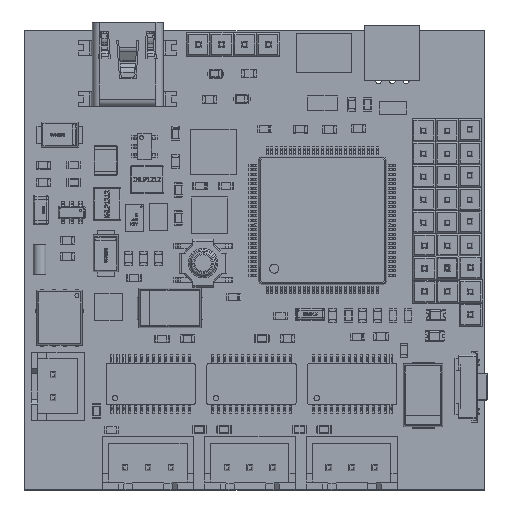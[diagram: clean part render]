
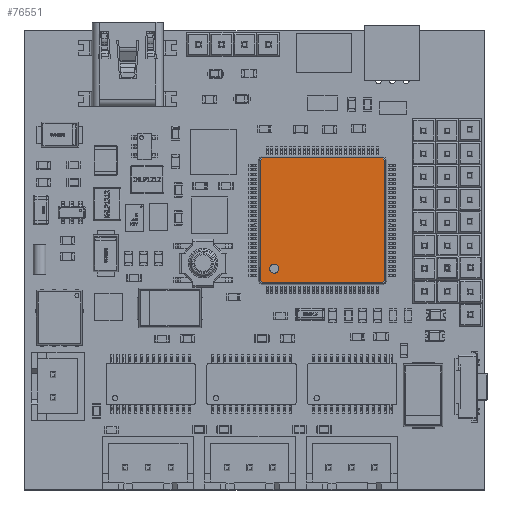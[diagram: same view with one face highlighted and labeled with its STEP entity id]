
A CAD part, top view. The second image highlights one B-rep face of the part: STEP entity #76551.
In plain terms, the highlighted planar face has unit normal (0, 0, 1).
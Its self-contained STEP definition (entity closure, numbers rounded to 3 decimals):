
#2403=FACE_BOUND('',#10679,.T.);
#2778=CIRCLE('',#81602,0.5);
#6226=FACE_OUTER_BOUND('',#10678,.T.);
#10678=EDGE_LOOP('',(#55348,#55349,#55350,#55351,#55352,#55353,#55354,#55355));
#10679=EDGE_LOOP('',(#55356));
#16804=LINE('',#116844,#25678);
#16805=LINE('',#116846,#25679);
#16806=LINE('',#116848,#25680);
#16807=LINE('',#116850,#25681);
#16808=LINE('',#116852,#25682);
#16809=LINE('',#116854,#25683);
#16810=LINE('',#116856,#25684);
#16811=LINE('',#116857,#25685);
#25678=VECTOR('',#93255,13.134);
#25679=VECTOR('',#93256,0.329);
#25680=VECTOR('',#93257,13.134);
#25681=VECTOR('',#93258,0.329);
#25682=VECTOR('',#93259,13.134);
#25683=VECTOR('',#93260,0.329);
#25684=VECTOR('',#93261,13.134);
#25685=VECTOR('',#93262,0.329);
#32904=VERTEX_POINT('',#113016);
#34437=VERTEX_POINT('',#116842);
#34438=VERTEX_POINT('',#116843);
#34439=VERTEX_POINT('',#116845);
#34440=VERTEX_POINT('',#116847);
#34441=VERTEX_POINT('',#116849);
#34442=VERTEX_POINT('',#116851);
#34443=VERTEX_POINT('',#116853);
#34444=VERTEX_POINT('',#116855);
#40468=EDGE_CURVE('',#32904,#32904,#2778,.T.);
#42401=EDGE_CURVE('',#34437,#34438,#16804,.T.);
#42402=EDGE_CURVE('',#34438,#34439,#16805,.T.);
#42403=EDGE_CURVE('',#34439,#34440,#16806,.T.);
#42404=EDGE_CURVE('',#34440,#34441,#16807,.T.);
#42405=EDGE_CURVE('',#34441,#34442,#16808,.T.);
#42406=EDGE_CURVE('',#34442,#34443,#16809,.T.);
#42407=EDGE_CURVE('',#34443,#34444,#16810,.T.);
#42408=EDGE_CURVE('',#34444,#34437,#16811,.T.);
#55348=ORIENTED_EDGE('',*,*,#42401,.T.);
#55349=ORIENTED_EDGE('',*,*,#42402,.T.);
#55350=ORIENTED_EDGE('',*,*,#42403,.T.);
#55351=ORIENTED_EDGE('',*,*,#42404,.T.);
#55352=ORIENTED_EDGE('',*,*,#42405,.T.);
#55353=ORIENTED_EDGE('',*,*,#42406,.T.);
#55354=ORIENTED_EDGE('',*,*,#42407,.T.);
#55355=ORIENTED_EDGE('',*,*,#42408,.T.);
#55356=ORIENTED_EDGE('',*,*,#40468,.F.);
#73319=PLANE('',#82361);
#76551=ADVANCED_FACE('',(#6226,#2403),#73319,.T.);
#81602=AXIS2_PLACEMENT_3D('',#113018,#90203,#90204);
#82361=AXIS2_PLACEMENT_3D('',#116841,#93253,#93254);
#90203=DIRECTION('center_axis',(0.,0.,1.));
#90204=DIRECTION('ref_axis',(1.,0.,0.));
#93253=DIRECTION('center_axis',(0.,0.,1.));
#93254=DIRECTION('ref_axis',(1.,0.,0.));
#93255=DIRECTION('',(0.,1.,0.));
#93256=DIRECTION('',(-0.707,0.707,0.));
#93257=DIRECTION('',(-1.,0.,0.));
#93258=DIRECTION('',(-0.707,-0.707,0.));
#93259=DIRECTION('',(0.,-1.,0.));
#93260=DIRECTION('',(0.707,-0.707,0.));
#93261=DIRECTION('',(1.,0.,0.));
#93262=DIRECTION('',(0.707,0.707,0.));
#113016=CARTESIAN_POINT('',(-5.75,-5.25,1.6));
#113018=CARTESIAN_POINT('Origin',(-5.25,-5.25,1.6));
#116841=CARTESIAN_POINT('Origin',(-7.,-7.,1.6));
#116842=CARTESIAN_POINT('',(6.8,-6.567,1.6));
#116843=CARTESIAN_POINT('',(6.8,6.567,1.6));
#116844=CARTESIAN_POINT('',(6.8,-6.567,1.6));
#116845=CARTESIAN_POINT('',(6.567,6.8,1.6));
#116846=CARTESIAN_POINT('',(6.8,6.567,1.6));
#116847=CARTESIAN_POINT('',(-6.567,6.8,1.6));
#116848=CARTESIAN_POINT('',(6.567,6.8,1.6));
#116849=CARTESIAN_POINT('',(-6.8,6.567,1.6));
#116850=CARTESIAN_POINT('',(-6.567,6.8,1.6));
#116851=CARTESIAN_POINT('',(-6.8,-6.567,1.6));
#116852=CARTESIAN_POINT('',(-6.8,6.567,1.6));
#116853=CARTESIAN_POINT('',(-6.567,-6.8,1.6));
#116854=CARTESIAN_POINT('',(-6.8,-6.567,1.6));
#116855=CARTESIAN_POINT('',(6.567,-6.8,1.6));
#116856=CARTESIAN_POINT('',(-6.567,-6.8,1.6));
#116857=CARTESIAN_POINT('',(6.567,-6.8,1.6));
